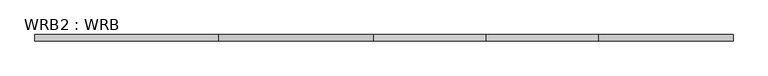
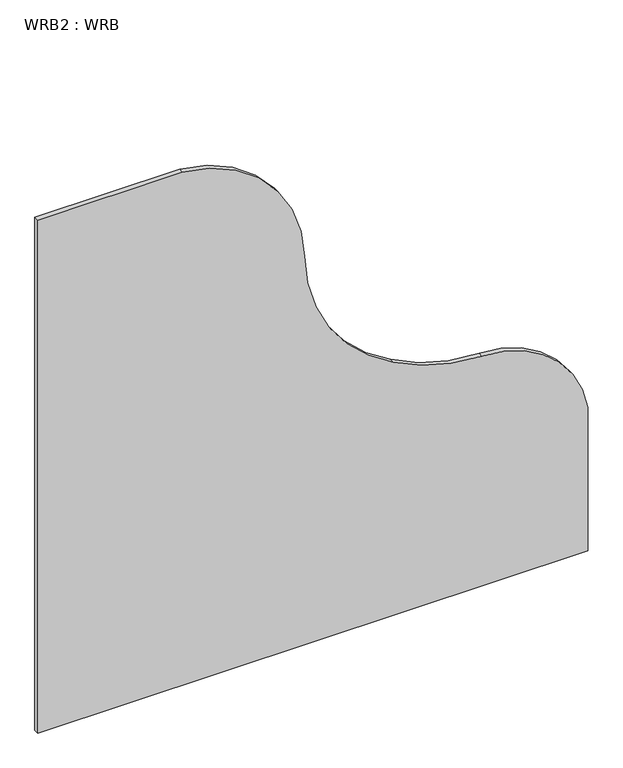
"""IFC4 building model written with IfcOpenShell, lengths in millimetres: proxy geometry, WRB2 : WRB."""

import ifcopenshell
import ifcopenshell.guid

model = None  # the IFC model being written
_history = None  # IfcOwnerHistory: only IFC2X3 demands one
_inside = {}  # id of a spatial element -> (the spatial element, [elements in it])
_under = {}  # id of a project, library or spatial element -> (it, [spatial elements below it])
_declared = {}  # id of a project -> (the project, [libraries it declares])
_typed = {}  # id of a type object -> (the type object, [elements of that type])
_made_of = {}  # id of a material, layer set ... -> (it, [elements and type objects made of it])


def new_model(schema):
    """Start an empty IFC model of exactly this schema.

    Asked for "IFC4X3", IfcOpenShell would pick the latest addendum, in which some entities
    have other attributes; the version numbers below select the first issue.
    IFC2X3 requires an IfcOwnerHistory on every rooted entity: one is made here for all.
    """
    global model, _history
    if schema == "IFC4X3":
        model = ifcopenshell.file(schema_version=(4, 3, 0, 0))
    else:
        model = ifcopenshell.file(schema=schema)
    _inside.clear()
    _under.clear()
    _declared.clear()
    _typed.clear()
    _made_of.clear()
    _history = None
    if model.schema == "IFC2X3":
        org = make("IfcOrganization", Name="unknown")
        user = make(
            "IfcPersonAndOrganization",
            ThePerson=make("IfcPerson", FamilyName="unknown"),
            TheOrganization=org,
        )
        app = make(
            "IfcApplication",
            ApplicationDeveloper=org,
            Version="unknown",
            ApplicationFullName="unknown",
            ApplicationIdentifier="unknown",
        )
        _history = make(
            "IfcOwnerHistory",
            OwningUser=user,
            OwningApplication=app,
            ChangeAction="ADDED",
            CreationDate=0,
        )
    return model


def make(cls, **values):
    """One entity of the class cls with the attributes given. An attribute that is None is left unset."""
    return model.create_entity(
        cls, **{name: value for name, value in values.items() if value is not None}
    )


def rooted(cls, **values):
    """An entity with a GlobalId (a new one), such as an element, a storey or a relation."""
    return make(cls, GlobalId=ifcopenshell.guid.new(), OwnerHistory=_history, **values)


def si_unit(unit_type, name, prefix=None):
    """IfcSIUnit, for example si_unit("LENGTHUNIT", "METRE", prefix="MILLI")."""
    return make("IfcSIUnit", UnitType=unit_type, Prefix=prefix, Name=name)


def assignment(units):
    """IfcUnitAssignment: the units of a project."""
    return None if units is None else make("IfcUnitAssignment", Units=units)


def point(xyz):
    """IfcCartesianPoint."""
    return None if xyz is None else make("IfcCartesianPoint", Coordinates=xyz)


def direction(xyz):
    """IfcDirection."""
    return None if xyz is None else make("IfcDirection", DirectionRatios=xyz)


def frame(location, z_axis=None, x_axis=None):
    """IfcAxis2Placement3D, a coordinate frame: its origin and axes. An axis left out is left unset."""
    return make(
        "IfcAxis2Placement3D",
        Location=point(location),
        Axis=direction(z_axis),
        RefDirection=direction(x_axis),
    )


def frame_2d(location, x_axis=None):
    """IfcAxis2Placement2D, a coordinate frame in the plane: its origin and x axis."""
    return make(
        "IfcAxis2Placement2D", Location=point(location), RefDirection=direction(x_axis)
    )


def origin():
    """The frame at (0, 0, 0) with its axes left unset."""
    return frame((0.0, 0.0, 0.0))


def place(relative_to, where):
    """IfcLocalPlacement: puts the frame where relative to a parent placement (None: the world)."""
    return make(
        "IfcLocalPlacement", PlacementRelTo=relative_to, RelativePlacement=where
    )


def context(
    kind, dimensions, precision=None, world=None, true_north=None, identifier=None
):
    """IfcGeometricRepresentationContext, for example the 3D "Model" context."""
    return make(
        "IfcGeometricRepresentationContext",
        ContextIdentifier=identifier,
        ContextType=kind,
        CoordinateSpaceDimension=dimensions,
        Precision=precision,
        WorldCoordinateSystem=world,
        TrueNorth=true_north,
    )


def project(units=None, contexts=None):
    """IfcProject with its units and contexts."""
    return rooted(
        "IfcProject",
        Name="project",
        RepresentationContexts=contexts,
        UnitsInContext=assignment(units),
    )


def spatial(cls, under=None, at=None, **own):
    """A site, building, storey or space (cls), placed at a placement, below another one or the project."""
    s = rooted(cls, ObjectPlacement=at, **own)
    if under is not None:
        _under.setdefault(under.id(), (under, []))[1].append(s)
    return s


def polyline(points):
    """IfcPolyline through the points."""
    return make("IfcPolyline", Points=[point(p) for p in points])


def circle_curve(where, radius):
    """IfcCircle in the frame where."""
    return make("IfcCircle", Position=where, Radius=radius)


def trimmed(basis, trim1, trim2, sense, master):
    """IfcTrimmedCurve: the piece of a basis curve between two trims."""
    return make(
        "IfcTrimmedCurve",
        BasisCurve=basis,
        Trim1=trim1,
        Trim2=trim2,
        SenseAgreement=sense,
        MasterRepresentation=master,
    )


def segment(curve, same_sense, transition):
    """IfcCompositeCurveSegment."""
    return make(
        "IfcCompositeCurveSegment",
        Transition=transition,
        SameSense=same_sense,
        ParentCurve=curve,
    )


def composite_curve(segments, self_intersect=None):
    """IfcCompositeCurve: segments joined end to end."""
    return make("IfcCompositeCurve", Segments=segments, SelfIntersect=self_intersect)


def outline(outer, holes=None, kind="AREA"):
    """IfcArbitraryClosedProfileDef: a profile drawn as a closed curve; with holes, ...WithVoids."""
    if holes is None:
        return make("IfcArbitraryClosedProfileDef", ProfileType=kind, OuterCurve=outer)
    return make(
        "IfcArbitraryProfileDefWithVoids",
        ProfileType=kind,
        OuterCurve=outer,
        InnerCurves=holes,
    )


def extrude(swept, where, along, depth):
    """IfcExtrudedAreaSolid: the profile swept, set in the frame where, extruded along a direction by depth."""
    return make(
        "IfcExtrudedAreaSolid",
        SweptArea=swept,
        Position=where,
        ExtrudedDirection=direction(along),
        Depth=depth,
    )


def shape(context_of_items, identifier, shape_type, items):
    """IfcShapeRepresentation: the items that make up one representation, for example the "Body"."""
    return make(
        "IfcShapeRepresentation",
        ContextOfItems=context_of_items,
        RepresentationIdentifier=identifier,
        RepresentationType=shape_type,
        Items=items,
    )


def source(mapping_origin, context_of_items, identifier, shape_type, items):
    """IfcRepresentationMap: a shape defined once, which mapped items show again and again."""
    return make(
        "IfcRepresentationMap",
        MappingOrigin=mapping_origin,
        MappedRepresentation=shape(context_of_items, identifier, shape_type, items),
    )


def transform(
    local_origin,
    x_axis=None,
    y_axis=None,
    z_axis=None,
    scale=None,
    scale2=None,
    scale3=None,
    uniform=True,
):
    """IfcCartesianTransformationOperator3D, or its non-uniform kind. x_axis, y_axis, z_axis: its Axis1, 2, 3."""
    if uniform:
        return make(
            "IfcCartesianTransformationOperator3D",
            Axis1=direction(x_axis),
            Axis2=direction(y_axis),
            LocalOrigin=point(local_origin),
            Scale=scale,
            Axis3=direction(z_axis),
        )
    return make(
        "IfcCartesianTransformationOperator3DnonUniform",
        Axis1=direction(x_axis),
        Axis2=direction(y_axis),
        LocalOrigin=point(local_origin),
        Scale=scale,
        Axis3=direction(z_axis),
        Scale2=scale2,
        Scale3=scale3,
    )


def mapped(mapping_source, mapping_target):
    """IfcMappedItem: shows the shape of a source again, moved by a transform."""
    return make(
        "IfcMappedItem", MappingSource=mapping_source, MappingTarget=mapping_target
    )


def made_of(thing, what):
    """Note that an element or type object is made of a material, layer set ...; save() writes the relation."""
    if what is not None:
        _made_of.setdefault(what.id(), (what, []))[1].append(thing)
    return thing


def element(
    cls,
    number,
    at=None,
    inside=None,
    cuts=None,
    type_object=None,
    material=None,
    context=None,
    identifier="Body",
    shape_type=None,
    held_by="IfcProductDefinitionShape",
    body=None,
    shapes=None,
    **own,
):
    """One element of the class cls, such as IfcWall. Its Tag is "e" and its number.

    at: its placement. inside: the storey or other place that contains it. cuts: it is an
    opening in that element (IfcRelVoidsElement). A single representation is given by context,
    identifier, shape_type and body (its items); several are given by shapes. held_by: the class
    of the entity that holds the representations. save() writes the other relations.
    """
    e = rooted(cls, Tag="e%d" % number, ObjectPlacement=at, **own)
    if body is not None:
        shapes = [shape(context, identifier, shape_type, body)]
    if shapes is not None:
        e.Representation = make(held_by, Representations=shapes)
    if inside is not None:
        _inside.setdefault(inside.id(), (inside, []))[1].append(e)
    if cuts is not None:
        rooted(
            "IfcRelVoidsElement", RelatingBuildingElement=cuts, RelatedOpeningElement=e
        )
    if type_object is not None:
        _typed.setdefault(type_object.id(), (type_object, []))[1].append(e)
    return made_of(e, material)


def aggregate(whole, parts):
    """IfcRelAggregates: a whole, such as a stair, and the parts it consists of."""
    return rooted("IfcRelAggregates", RelatingObject=whole, RelatedObjects=parts)


def save(model, path):
    """Write the relations noted so far, then the file.

    IfcRelAggregates (storeys below a building ...), IfcRelContainedInSpatialStructure (elements
    in a storey), IfcRelDefinesByType, IfcRelAssociatesMaterial and IfcRelDeclares: one each for
    every whole, place, type object, material and project.
    """
    for whole, parts in _under.values():
        aggregate(whole, parts)
    for where, things in _inside.values():
        rooted(
            "IfcRelContainedInSpatialStructure",
            RelatedElements=things,
            RelatingStructure=where,
        )
    for kind, things in _typed.values():
        rooted("IfcRelDefinesByType", RelatedObjects=things, RelatingType=kind)
    for what, things in _made_of.values():
        rooted("IfcRelAssociatesMaterial", RelatedObjects=things, RelatingMaterial=what)
    for by, libraries in _declared.values():
        rooted("IfcRelDeclares", RelatingContext=by, RelatedDefinitions=libraries)
    model.write(path)


def wrb2_wrb_4205755c(model_context):
    return source(origin(), model_context, "Body", "SweptSolid", [
        extrude(outline(composite_curve([segment(polyline([(-19.05, 3323.247143), (-19.05, 4580.547143), (326.9760682, 4580.547143)]), True, "CONTINUOUS"), segment(trimmed(circle_curve(frame_2d((286.9857554, 4335.2368291)), 248.5485369), [point((326.9760682, 4580.547143))], [point((535.510358, 4338.6860471))], False, "CARTESIAN"), True, "CONTINUOUS"), segment(trimmed(circle_curve(frame_2d((948.5891228, 4344.419076)), 413.1185466), [point((535.510358, 4338.6860471))], [point((591.8706469, 4136.047143))], True, "CARTESIAN"), True, "CONTINUOUS"), segment(trimmed(circle_curve(frame_2d((925.1337293, 4306.8093528)), 374.4649709), [point((591.8706469, 4136.047143))], [point((918.4023164, 3932.404889))], True, "CARTESIAN"), True, "CONTINUOUS"), segment(trimmed(circle_curve(frame_2d((912.871688, 3624.78864)), 307.6659626), [point((918.4023164, 3932.404889))], [point((1219.2, 3653.447143))], False, "CARTESIAN"), True, "CONTINUOUS"), segment(polyline([(1219.2, 3653.447143), (1219.2, 3323.247143), (-19.05, 3323.247143)]), True, "CONTINUOUS")], self_intersect=False)), frame((0.0, 3038.7640644, 0.0), z_axis=(0.0, 1.0, 0.0), x_axis=(0.0, 0.0, 1.0)), (0.0, 0.0, 1.0), 11.1125),
    ])


if __name__ == "__main__":
    model = new_model("IFC4")
    model_context = context("Model", 3, world=origin())
    ifc_project = project(units=[si_unit("LENGTHUNIT", "METRE", prefix="MILLI")], contexts=[model_context])
    site = spatial("IfcSite", under=ifc_project)
    building = spatial("IfcBuilding", under=site)
    placement = place(None, origin())
    wrb2_wrb_shape = wrb2_wrb_4205755c(model_context)
    element("IfcBuildingElementProxy", 1, Name="WRB2 : WRB", ObjectType="WRB2 : WRB", at=placement, inside=building, context=model_context, shape_type="MappedRepresentation", body=[
        mapped(wrb2_wrb_shape, transform((0.0, 0.0, 0.0), x_axis=(1.0, 0.0, 0.0), y_axis=(0.0, 1.0, 0.0), z_axis=(0.0, 0.0, 1.0))),
    ])
    save(model, "model.ifc")
